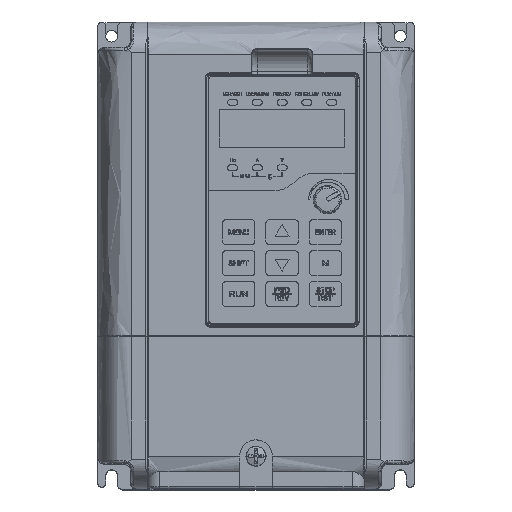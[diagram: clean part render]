
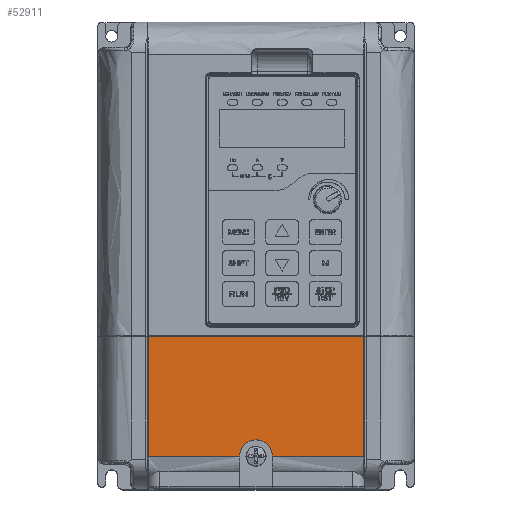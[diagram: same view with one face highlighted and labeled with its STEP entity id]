
A CAD part, top view. The second image highlights one B-rep face of the part: STEP entity #52911.
In plain terms, the highlighted planar face has unit normal (0, 0, 1).
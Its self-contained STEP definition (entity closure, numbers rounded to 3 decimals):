
#1453 = CARTESIAN_POINT ( 'NONE',  ( -42.968, -32.25, 157. ) ) ;
#3784 = VERTEX_POINT ( 'NONE', #143549 ) ;
#3861 = CARTESIAN_POINT ( 'NONE',  ( -60.4, -80.4, 157. ) ) ;
#7673 = CARTESIAN_POINT ( 'NONE',  ( 42.968, -80.4, 157. ) ) ;
#7823 = ORIENTED_EDGE ( 'NONE', *, *, #91261, .T. ) ;
#16294 = CARTESIAN_POINT ( 'NONE',  ( 6.5, -80.1, 157. ) ) ;
#16956 = LINE ( 'NONE', #29424, #26646 ) ;
#17644 = CARTESIAN_POINT ( 'NONE',  ( -60.4, -80.1, 157. ) ) ;
#20042 = AXIS2_PLACEMENT_3D ( 'NONE', #3861, #150509, #51662 ) ;
#21022 = LINE ( 'NONE', #105669, #60818 ) ;
#23707 = DIRECTION ( 'NONE',  ( -1., 0., 0. ) ) ;
#26646 = VECTOR ( 'NONE', #136918, 1000. ) ;
#27214 = VERTEX_POINT ( 'NONE', #95348 ) ;
#29424 = CARTESIAN_POINT ( 'NONE',  ( 6.5, -96.826, 157. ) ) ;
#29788 = VERTEX_POINT ( 'NONE', #35744 ) ;
#32416 = EDGE_CURVE ( 'NONE', #93991, #86328, #21022, .T. ) ;
#35744 = CARTESIAN_POINT ( 'NONE',  ( -42.968, -80.1, 157. ) ) ;
#38598 = DIRECTION ( 'NONE',  ( 0., -1., 0. ) ) ;
#43316 = ORIENTED_EDGE ( 'NONE', *, *, #73797, .T. ) ;
#51662 = DIRECTION ( 'NONE',  ( 1., 0., 0. ) ) ;
#52911 = ADVANCED_FACE ( 'NONE', ( #54754 ), #53999, .T. ) ;
#53999 = PLANE ( 'NONE',  #20042 ) ;
#54754 = FACE_OUTER_BOUND ( 'NONE', #131520, .T. ) ;
#54920 = EDGE_CURVE ( 'NONE', #29788, #86328, #56762, .T. ) ;
#55525 = DIRECTION ( 'NONE',  ( 0., 1., 0. ) ) ;
#56762 = LINE ( 'NONE', #17644, #125631 ) ;
#60818 = VECTOR ( 'NONE', #127731, 1000. ) ;
#64792 = EDGE_CURVE ( 'NONE', #122655, #27214, #128164, .T. ) ;
#67973 = EDGE_CURVE ( 'NONE', #122655, #3784, #16956, .T. ) ;
#69007 = ORIENTED_EDGE ( 'NONE', *, *, #32416, .F. ) ;
#72588 = VECTOR ( 'NONE', #103231, 1000. ) ;
#73797 = EDGE_CURVE ( 'NONE', #109741, #124810, #79696, .T. ) ;
#74666 = LINE ( 'NONE', #76974, #93378 ) ;
#76974 = CARTESIAN_POINT ( 'NONE',  ( -42.968, -80.4, 157. ) ) ;
#78172 = CARTESIAN_POINT ( 'NONE',  ( -6.5, -79.9, 157. ) ) ;
#78665 = ORIENTED_EDGE ( 'NONE', *, *, #64792, .T. ) ;
#79489 = DIRECTION ( 'NONE',  ( 1., 0., 0. ) ) ;
#79696 = LINE ( 'NONE', #127585, #72588 ) ;
#81043 = CARTESIAN_POINT ( 'NONE',  ( -60.4, -80.1, 157. ) ) ;
#86328 = VERTEX_POINT ( 'NONE', #147180 ) ;
#90600 = ORIENTED_EDGE ( 'NONE', *, *, #54920, .T. ) ;
#91261 = EDGE_CURVE ( 'NONE', #27214, #109741, #115906, .T. ) ;
#92232 = ORIENTED_EDGE ( 'NONE', *, *, #146151, .T. ) ;
#93378 = VECTOR ( 'NONE', #38598, 1000. ) ;
#93991 = VERTEX_POINT ( 'NONE', #78172 ) ;
#95348 = CARTESIAN_POINT ( 'NONE',  ( 42.968, -80.1, 157. ) ) ;
#96681 = DIRECTION ( 'NONE',  ( 0., 0., -1. ) ) ;
#99928 = VECTOR ( 'NONE', #79489, 1000. ) ;
#100439 = ORIENTED_EDGE ( 'NONE', *, *, #123528, .T. ) ;
#101068 = VECTOR ( 'NONE', #55525, 1000. ) ;
#103231 = DIRECTION ( 'NONE',  ( -1., 0., 0. ) ) ;
#104591 = DIRECTION ( 'NONE',  ( 1., 0., 0. ) ) ;
#105669 = CARTESIAN_POINT ( 'NONE',  ( -6.5, -79.9, 157. ) ) ;
#109741 = VERTEX_POINT ( 'NONE', #155003 ) ;
#115008 = ORIENTED_EDGE ( 'NONE', *, *, #67973, .F. ) ;
#115906 = LINE ( 'NONE', #7673, #101068 ) ;
#122655 = VERTEX_POINT ( 'NONE', #16294 ) ;
#123528 = EDGE_CURVE ( 'NONE', #124810, #29788, #74666, .T. ) ;
#124810 = VERTEX_POINT ( 'NONE', #1453 ) ;
#125631 = VECTOR ( 'NONE', #104591, 1000. ) ;
#127585 = CARTESIAN_POINT ( 'NONE',  ( -60.4, -32.25, 157. ) ) ;
#127731 = DIRECTION ( 'NONE',  ( 0., -1., 0. ) ) ;
#128164 = LINE ( 'NONE', #81043, #99928 ) ;
#131094 = AXIS2_PLACEMENT_3D ( 'NONE', #131256, #96681, #23707 ) ;
#131256 = CARTESIAN_POINT ( 'NONE',  ( 0., -79.9, 157. ) ) ;
#131520 = EDGE_LOOP ( 'NONE', ( #7823, #43316, #100439, #90600, #69007, #92232, #115008, #78665 ) ) ;
#136074 = CIRCLE ( 'NONE', #131094, 6.5 ) ;
#136918 = DIRECTION ( 'NONE',  ( 0., 1., 0. ) ) ;
#143549 = CARTESIAN_POINT ( 'NONE',  ( 6.5, -79.9, 157. ) ) ;
#146151 = EDGE_CURVE ( 'NONE', #93991, #3784, #136074, .T. ) ;
#147180 = CARTESIAN_POINT ( 'NONE',  ( -6.5, -80.1, 157. ) ) ;
#150509 = DIRECTION ( 'NONE',  ( 0., 0., 1. ) ) ;
#155003 = CARTESIAN_POINT ( 'NONE',  ( 42.968, -32.25, 157. ) ) ;
